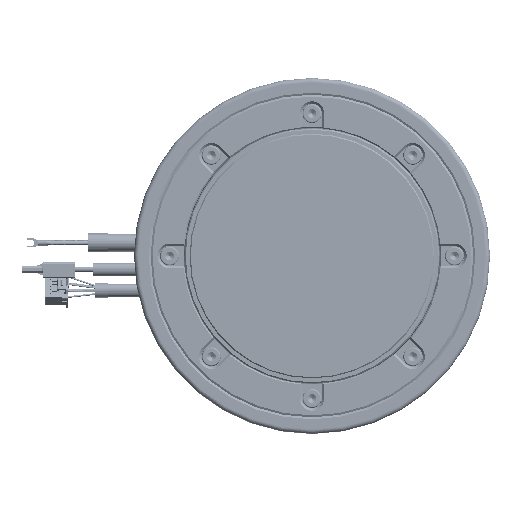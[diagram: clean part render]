
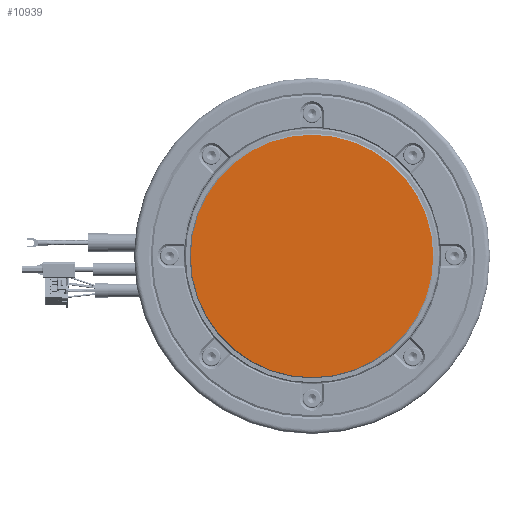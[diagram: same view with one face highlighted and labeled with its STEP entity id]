
A CAD part, left-side view. The second image highlights one B-rep face of the part: STEP entity #10939.
In plain terms, the highlighted planar face has unit normal (-1, 0, 0).
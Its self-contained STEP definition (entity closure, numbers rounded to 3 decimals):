
#8496=CARTESIAN_POINT('',(0.,0.,0.));
#8497=DIRECTION('',(1.,0.,0.));
#8498=DIRECTION('',(0.,0.,-1.));
#8499=AXIS2_PLACEMENT_3D('',#8496,#8497,#8498);
#8501=CARTESIAN_POINT('',(0.,0.,0.));
#8502=DIRECTION('',(1.,0.,0.));
#8503=DIRECTION('',(0.,0.,1.));
#8504=AXIS2_PLACEMENT_3D('',#8501,#8502,#8503);
#9491=CARTESIAN_POINT('',(0.,0.,-54.5));
#9492=CARTESIAN_POINT('',(0.,0.,54.5));
#9493=VERTEX_POINT('',#9491);
#9494=VERTEX_POINT('',#9492);
#10929=CARTESIAN_POINT('',(0.,0.,0.));
#10930=DIRECTION('',(-1.,0.,0.));
#10931=DIRECTION('',(0.,0.,1.));
#10932=AXIS2_PLACEMENT_3D('',#10929,#10930,#10931);
#10933=PLANE('',#10932);
#10934=ORIENTED_EDGE('',*,*,#10919,.T.);
#10936=ORIENTED_EDGE('',*,*,#10935,.T.);
#10937=EDGE_LOOP('',(#10934,#10936));
#10938=FACE_OUTER_BOUND('',#10937,.F.);
#10939=ADVANCED_FACE('',(#10938),#10933,.T.);
#8500=CIRCLE('',#8499,54.5);
#8505=CIRCLE('',#8504,54.5);
#10919=EDGE_CURVE('',#9493,#9494,#8500,.T.);
#10935=EDGE_CURVE('',#9494,#9493,#8505,.T.);
